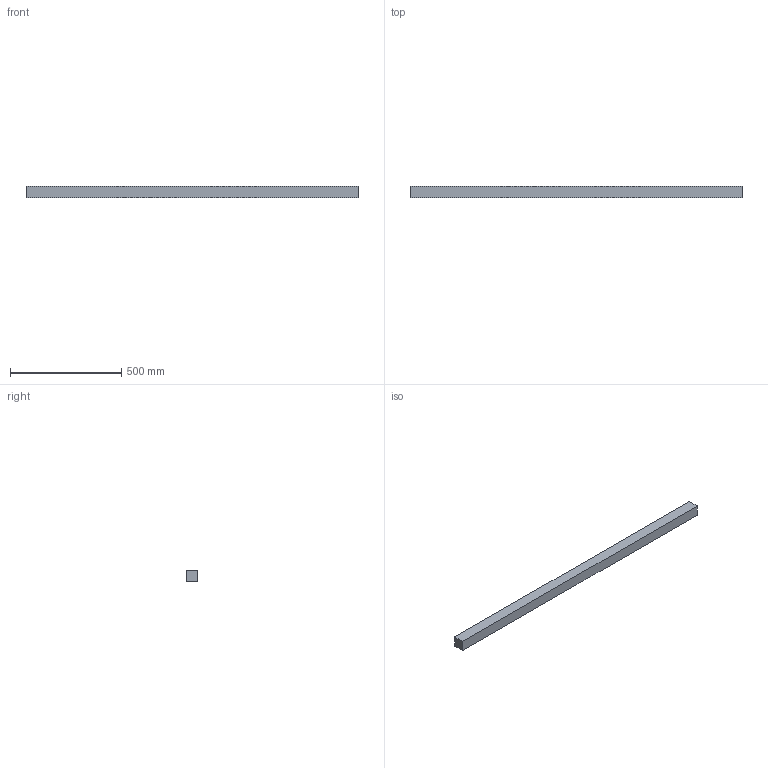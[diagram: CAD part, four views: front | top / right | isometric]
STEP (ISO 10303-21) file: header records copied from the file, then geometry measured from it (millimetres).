
FILE_DESCRIPTION(('Open CASCADE Model'),'2;1');
FILE_NAME('Open CASCADE Shape Model','2026-09-28T10:14:20',('Author'),( 'Open CASCADE'),'Open CASCADE STEP processor 7.9','Open CASCADE 7.9' ,'Unknown');
FILE_SCHEMA(('AUTOMOTIVE_DESIGN { 1 0 10303 214 1 1 1 1 }'));
Length unit declared in the file: millimetre
Products named in the file (1): Open CASCADE STEP translator 7.9 42
Bounding box: 1489 x 50 x 50 mm (x, y, z)
Volume: 3722500 mm3; surface area: 302800 mm2
Topology: 1 solids, 1 shells, 6 faces, 12 edges, 8 vertices
Faces by surface type: plane 6
Entity records: 322 total; most frequent: CARTESIAN_POINT 51, DIRECTION 50, LINE 36, VECTOR 36, ORIENTED_EDGE 24, PCURVE 24, DEFINITIONAL_REPRESENTATION 24, EDGE_CURVE 12
